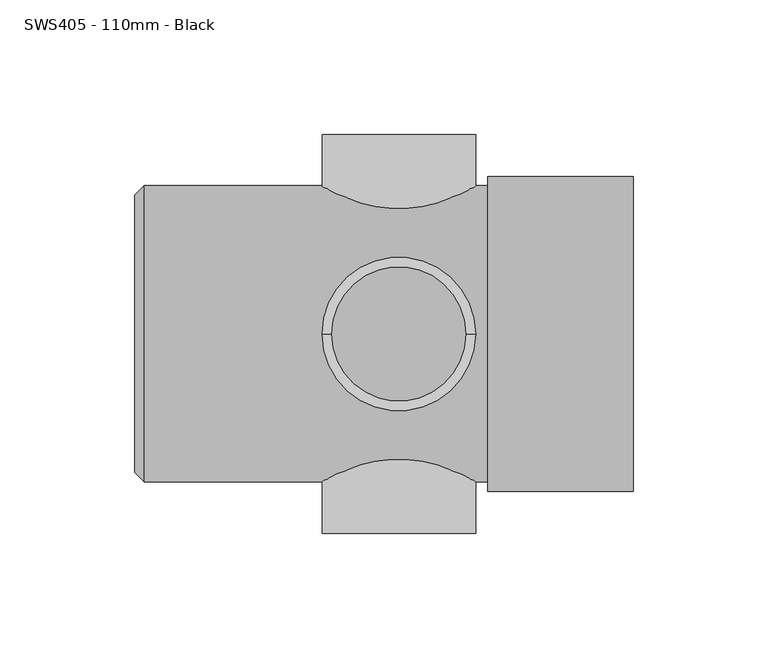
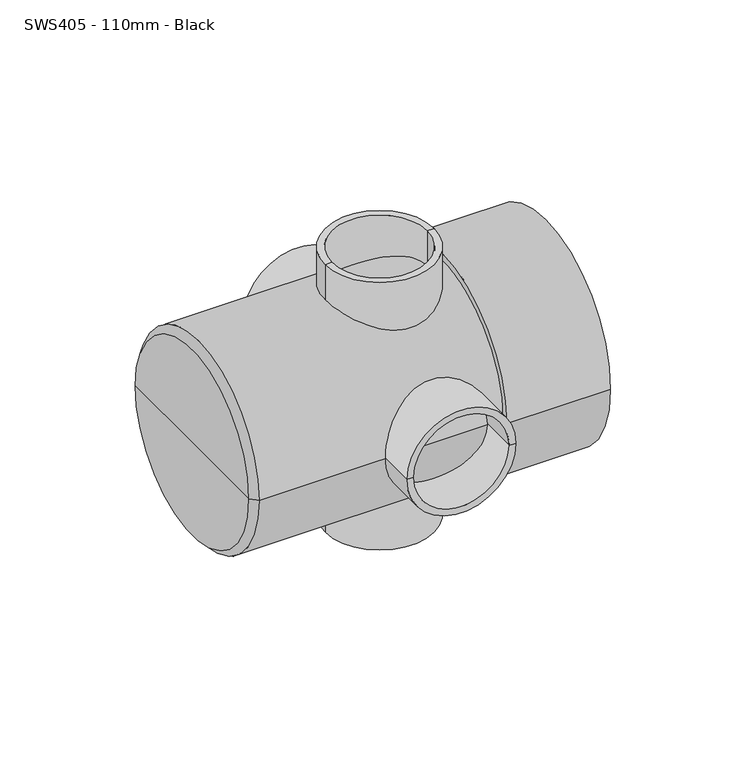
"""IFC4 building model written with IfcOpenShell, lengths in millimetres: pipe fitting geometry, MarleyPlumbingAndDrainage_PipeFitting_BossPipeSolventSocket : SWS405 - 110mm - Black."""

from ifc_helpers import new_model, si_unit, frame, origin, place, context, project, spatial, polyline, circle_curve, source, transform, mapped, element, save
from ifc_brep_helpers import plane_surface, cylinder_surface, revolved_surface, advanced_brep


def sws405_110mm_black_abae9346(model_context):
    return source(origin(), model_context, "Body", "AdvancedBrep", [
        advanced_brep(
        [(19.1746182, 0.0, 74.0), (-37.8253818, 0.0, 74.0), (-34.3253818, 0.0, 74.0), (15.6746182, 0.0, 74.0), (19.1746182, 0.0, -74.0), (-37.8253818, 0.0, -74.0), (15.6746182, 0.0, -74.0), (-34.3253818, 0.0, -74.0)],
        [
            (0, 1, circle_curve(frame((-9.3253818, 0.0, 74.0), z_axis=(0.0, 0.0, 1.0), x_axis=(-1.0, 0.0, 0.0)), 28.5)),
            (1, 2),
            (2, 3, circle_curve(frame((-9.3253818, 0.0, 74.0), z_axis=(0.0, 0.0, -1.0), x_axis=(-1.0, 0.0, 0.0)), 25.0)),
            (3, 0),
            (1, 0, circle_curve(frame((-9.3253818, 0.0, 74.0), z_axis=(0.0, 0.0, 1.0), x_axis=(-1.0, 0.0, 0.0)), 28.5)),
            (3, 2, circle_curve(frame((-9.3253818, 0.0, 74.0), z_axis=(0.0, 0.0, -1.0), x_axis=(-1.0, 0.0, 0.0)), 25.0)),
            (4, 5, circle_curve(frame((-9.3253818, 0.0, -74.0), z_axis=(0.0, 0.0, 1.0), x_axis=(-1.0, 0.0, 0.0)), 28.5)),
            (5, 1),
            (0, 4),
            (5, 4, circle_curve(frame((-9.3253818, 0.0, -74.0), z_axis=(0.0, 0.0, 1.0), x_axis=(-1.0, 0.0, 0.0)), 28.5)),
            (6, 7, circle_curve(frame((-9.3253818, 0.0, -74.0), z_axis=(0.0, 0.0, 1.0), x_axis=(-1.0, 0.0, 0.0)), 25.0)),
            (7, 5),
            (4, 6),
            (7, 6, circle_curve(frame((-9.3253818, 0.0, -74.0), z_axis=(0.0, 0.0, 1.0), x_axis=(-1.0, 0.0, 0.0)), 25.0)),
            (2, 7),
            (6, 3),
        ],
        [
            plane_surface(frame((-9.3253818, 0.0, 74.0), z_axis=(0.0, 0.0, 1.0), x_axis=(-1.0, 0.0, 0.0))),
            cylinder_surface(frame((-9.3253818, 0.0, 2432.5578271), z_axis=(0.0, 0.0, -1.0), x_axis=(-1.0, 0.0, 0.0)), 28.5),
            plane_surface(frame((-9.3253818, 0.0, -74.0), z_axis=(0.0, 0.0, -1.0), x_axis=(-1.0, 0.0, 0.0))),
            revolved_surface(polyline([(-34.3253818, 0.0, -74.0), (-34.3253818, 0.0, 74.0)]), (-9.3253818, 0.0, 2432.5578271), (0.0, 0.0, -1.0)),
        ],
        [
            (0, [[1, 2, 3, 4]]),
            (0, [[5, -4, 6, -2]]),
            (1, [[7, 8, -1, 9]]),
            (1, [[10, -9, -5, -8]]),
            (2, [[11, 12, -7, 13]]),
            (2, [[14, -13, -10, -12]]),
            (3, [[-3, 15, -11, 16]]),
            (3, [[-6, -16, -14, -15]]),
        ],
    ),
        advanced_brep(
        [(19.1746182, 74.0, 0.0), (-37.8253818, 74.0, 0.0), (-34.3253818, 74.0, 0.0), (15.6746182, 74.0, 0.0), (19.1746182, -74.0, 0.0), (-37.8253818, -74.0, 0.0), (15.6746182, -74.0, 0.0), (-34.3253818, -74.0, 0.0)],
        [
            (0, 1, circle_curve(frame((-9.3253818, 74.0, 0.0), z_axis=(0.0, 1.0, 0.0), x_axis=(-1.0, 0.0, 0.0)), 28.5)),
            (1, 2),
            (2, 3, circle_curve(frame((-9.3253818, 74.0, 0.0), z_axis=(0.0, -1.0, 0.0), x_axis=(-1.0, 0.0, 0.0)), 25.0)),
            (3, 0),
            (1, 0, circle_curve(frame((-9.3253818, 74.0, 0.0), z_axis=(0.0, 1.0, 0.0), x_axis=(-1.0, 0.0, 0.0)), 28.5)),
            (3, 2, circle_curve(frame((-9.3253818, 74.0, 0.0), z_axis=(0.0, -1.0, 0.0), x_axis=(-1.0, 0.0, 0.0)), 25.0)),
            (4, 5, circle_curve(frame((-9.3253818, -74.0, 0.0), z_axis=(0.0, 1.0, 0.0), x_axis=(-1.0, 0.0, 0.0)), 28.5)),
            (5, 1),
            (0, 4),
            (5, 4, circle_curve(frame((-9.3253818, -74.0, 0.0), z_axis=(0.0, 1.0, 0.0), x_axis=(-1.0, 0.0, 0.0)), 28.5)),
            (6, 7, circle_curve(frame((-9.3253818, -74.0, 0.0), z_axis=(0.0, 1.0, 0.0), x_axis=(-1.0, 0.0, 0.0)), 25.0)),
            (7, 5),
            (4, 6),
            (7, 6, circle_curve(frame((-9.3253818, -74.0, 0.0), z_axis=(0.0, 1.0, 0.0), x_axis=(-1.0, 0.0, 0.0)), 25.0)),
            (2, 7),
            (6, 3),
        ],
        [
            plane_surface(frame((-9.3253818, 74.0, 0.0), z_axis=(0.0, 1.0, 0.0), x_axis=(-1.0, 0.0, 0.0))),
            cylinder_surface(frame((-9.3253818, 110.4070507, 0.0), z_axis=(0.0, -1.0, 0.0), x_axis=(-1.0, 0.0, 0.0)), 28.5),
            plane_surface(frame((-9.3253818, -74.0, 0.0), z_axis=(0.0, -1.0, 0.0), x_axis=(-1.0, 0.0, 0.0))),
            revolved_surface(polyline([(-34.3253818, -74.00000000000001, 0.0), (-34.3253818, 74.0, 0.0)]), (-9.3253818, 110.4070507, 0.0), (0.0, -1.0, 0.0)),
        ],
        [
            (0, [[1, 2, 3, 4]]),
            (0, [[5, -4, 6, -2]]),
            (1, [[7, 8, -1, 9]]),
            (1, [[10, -9, -5, -8]]),
            (2, [[11, 12, -7, 13]]),
            (2, [[14, -13, -10, -12]]),
            (3, [[-3, 15, -11, 16]]),
            (3, [[-6, -16, -14, -15]]),
        ],
    ),
        advanced_brep(
        [(23.6746182, -58.5, 0.0), (23.6746182, 58.5, 0.0), (77.6746182, 58.5, 0.0), (77.6746182, -58.5, 0.0), (23.6746182, -55.0, 0.0), (23.6746182, 55.0, 0.0), (-103.8253818, -55.0, 0.0), (-103.8253818, 55.0, 0.0), (-107.3253818, -51.5, 0.0), (-107.3253818, 51.5, 0.0), (-107.3253818, 0.0, 0.0), (27.1746182, -55.0, 0.0), (27.1746182, 55.0, 0.0), (27.1746182, 0.0, 0.0), (77.6746182, -55.0, 0.0), (77.6746182, 55.0, 0.0)],
        [
            (0, 1, circle_curve(frame((23.6746182, 0.0, 0.0), z_axis=(1.0, 0.0, 0.0), x_axis=(0.0, 1.0, 0.0)), 58.5)),
            (1, 2),
            (2, 3, circle_curve(frame((77.6746182, 0.0, 0.0), z_axis=(-1.0, 0.0, 0.0), x_axis=(0.0, 1.0, 0.0)), 58.5)),
            (3, 0),
            (1, 0, circle_curve(frame((23.6746182, 0.0, 0.0), z_axis=(1.0, 0.0, 0.0), x_axis=(0.0, 1.0, 0.0)), 58.5)),
            (3, 2, circle_curve(frame((77.6746182, 0.0, 0.0), z_axis=(-1.0, 0.0, 0.0), x_axis=(0.0, 1.0, 0.0)), 58.5)),
            (4, 5, circle_curve(frame((23.6746182, 0.0, 0.0), z_axis=(1.0, 0.0, 0.0), x_axis=(0.0, 1.0, 0.0)), 55.0)),
            (5, 1),
            (0, 4),
            (5, 4, circle_curve(frame((23.6746182, 0.0, 0.0), z_axis=(1.0, 0.0, 0.0), x_axis=(0.0, 1.0, 0.0)), 55.0)),
            (6, 7, circle_curve(frame((-103.8253818, 0.0, 0.0), z_axis=(1.0, 0.0, 0.0), x_axis=(0.0, 1.0, 0.0)), 55.0)),
            (7, 5),
            (4, 6),
            (7, 6, circle_curve(frame((-103.8253818, 0.0, 0.0), z_axis=(1.0, 0.0, 0.0), x_axis=(0.0, 1.0, 0.0)), 55.0)),
            (8, 9, circle_curve(frame((-107.3253818, 0.0, 0.0), z_axis=(1.0, 0.0, 0.0), x_axis=(0.0, 1.0, 0.0)), 51.5)),
            (9, 7),
            (6, 8),
            (9, 8, circle_curve(frame((-107.3253818, 0.0, 0.0), z_axis=(1.0, 0.0, 0.0), x_axis=(0.0, 1.0, 0.0)), 51.5)),
            (10, 9),
            (8, 10),
            (11, 12, circle_curve(frame((27.1746182, 0.0, 0.0), z_axis=(1.0, 0.0, 0.0), x_axis=(0.0, 1.0, 0.0)), 55.0)),
            (12, 13),
            (13, 11),
            (12, 11, circle_curve(frame((27.1746182, 0.0, 0.0), z_axis=(1.0, 0.0, 0.0), x_axis=(0.0, 1.0, 0.0)), 55.0)),
            (14, 15, circle_curve(frame((77.6746182, 0.0, 0.0), z_axis=(1.0, 0.0, 0.0), x_axis=(0.0, 1.0, 0.0)), 55.0)),
            (15, 12),
            (11, 14),
            (15, 14, circle_curve(frame((77.6746182, 0.0, 0.0), z_axis=(1.0, 0.0, 0.0), x_axis=(0.0, 1.0, 0.0)), 55.0)),
            (2, 15),
            (14, 3),
        ],
        [
            cylinder_surface(frame((2000.0, 0.0, 0.0), z_axis=(-1.0, 0.0, 0.0), x_axis=(0.0, 1.0, 0.0)), 58.5),
            plane_surface(frame((23.6746182, 0.0, 0.0), z_axis=(-1.0, 0.0, 0.0), x_axis=(0.0, 1.0, 0.0))),
            cylinder_surface(frame((2000.0, 0.0, 0.0), z_axis=(-1.0, 0.0, 0.0), x_axis=(0.0, 1.0, 0.0)), 55.0),
            revolved_surface(polyline([(-103.8253818, 55.0, 0.0), (-107.3253818, 51.5, 0.0)]), (2000.0, 0.0, 0.0), (-1.0, 0.0, 0.0)),
            plane_surface(frame((-107.3253818, 0.0, 0.0), z_axis=(-1.0, 0.0, 0.0), x_axis=(0.0, 1.0, 0.0))),
            plane_surface(frame((27.1746182, 0.0, 0.0), z_axis=(1.0, 0.0, 0.0), x_axis=(0.0, 1.0, 0.0))),
            revolved_surface(polyline([(27.17461819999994, 55.0, 0.0), (77.67461819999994, 55.0, 0.0)]), (2000.0, 0.0, 0.0), (-1.0, 0.0, 0.0)),
            plane_surface(frame((77.6746182, 0.0, 0.0), z_axis=(1.0, 0.0, 0.0), x_axis=(0.0, 1.0, 0.0))),
        ],
        [
            (0, [[1, 2, 3, 4]]),
            (0, [[5, -4, 6, -2]]),
            (1, [[7, 8, -1, 9]]),
            (1, [[10, -9, -5, -8]]),
            (2, [[11, 12, -7, 13]]),
            (2, [[14, -13, -10, -12]]),
            (3, [[15, 16, -11, 17]]),
            (3, [[18, -17, -14, -16]]),
            (4, [[19, -15, 20]]),
            (4, [[-20, -18, -19]]),
            (5, [[21, 22, 23]]),
            (5, [[24, -23, -22]]),
            (6, [[25, 26, -21, 27]]),
            (6, [[28, -27, -24, -26]]),
            (7, [[-3, 29, -25, 30]]),
            (7, [[-6, -30, -28, -29]]),
        ],
    ),
    ])


if __name__ == "__main__":
    model = new_model("IFC4")
    model_context = context("Model", 3, world=origin())
    ifc_project = project(units=[si_unit("LENGTHUNIT", "METRE", prefix="MILLI")], contexts=[model_context])
    site = spatial("IfcSite", under=ifc_project)
    building = spatial("IfcBuilding", under=site)
    placement = place(None, origin())
    sws405_110mm_black_shape = sws405_110mm_black_abae9346(model_context)
    element("IfcPipeFitting", 1, ObjectType="MarleyPlumbingAndDrainage_PipeFitting_BossPipeSolventSocket : SWS405 - 110mm - Black", at=placement, inside=building, context=model_context, shape_type="MappedRepresentation", body=[
        mapped(sws405_110mm_black_shape, transform((0.0, 0.0, 0.0), x_axis=(1.0, 0.0, 0.0), y_axis=(0.0, 1.0, 0.0), z_axis=(0.0, 0.0, 1.0))),
    ])
    save(model, "model.ifc")
